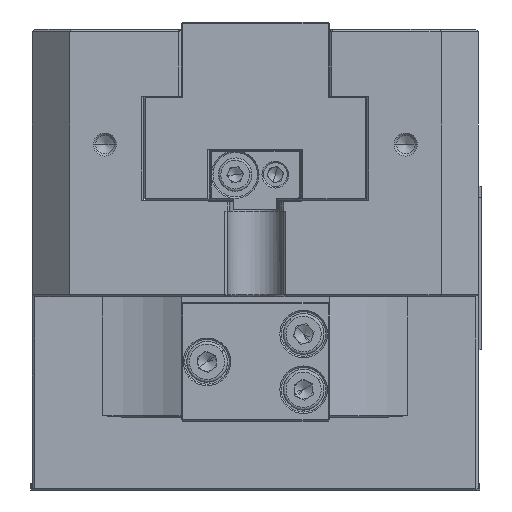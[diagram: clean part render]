
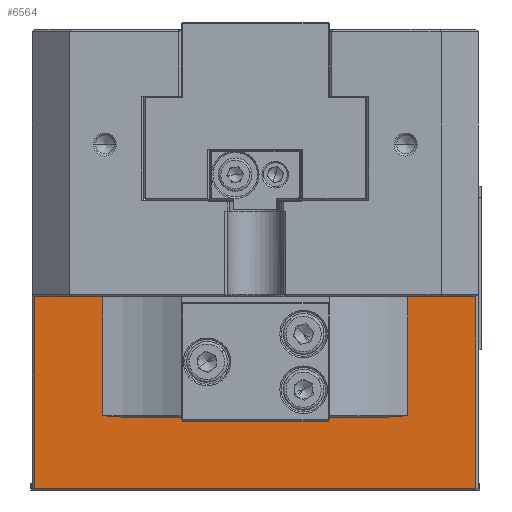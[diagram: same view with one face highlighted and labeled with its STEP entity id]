
A CAD part, left-side view. The second image highlights one B-rep face of the part: STEP entity #6564.
In plain terms, the highlighted planar face has unit normal (-1, 0, 0).
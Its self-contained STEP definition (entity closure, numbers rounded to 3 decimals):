
#175 = VERTEX_POINT ( 'NONE', #23861 ) ;
#216 = CARTESIAN_POINT ( 'NONE',  ( -50., 29.7, 0. ) ) ;
#347 = LINE ( 'NONE', #21010, #66348 ) ;
#1932 = VERTEX_POINT ( 'NONE', #38141 ) ;
#2890 = CARTESIAN_POINT ( 'NONE',  ( -50., -18.65, -34.067 ) ) ;
#3923 = B_SPLINE_CURVE_WITH_KNOTS ( 'NONE', 3,
 ( #31801, #9764, #32296, #4264 ),
 .UNSPECIFIED., .F., .F.,
 ( 4, 4 ),
 ( 0., 1. ),
 .UNSPECIFIED. ) ;
#4264 = CARTESIAN_POINT ( 'NONE',  ( -50., 20.536, -34. ) ) ;
#5652 = EDGE_CURVE ( 'NONE', #35969, #1932, #10159, .T. ) ;
#6564 = ADVANCED_FACE ( 'NONE', ( #64176 ), #29659, .F. ) ;
#8763 = LINE ( 'NONE', #31832, #19246 ) ;
#9575 = CARTESIAN_POINT ( 'NONE',  ( -50., 30., -18. ) ) ;
#9764 = CARTESIAN_POINT ( 'NONE',  ( -50., 18.65, -34.067 ) ) ;
#9846 = ORIENTED_EDGE ( 'NONE', *, *, #62039, .F. ) ;
#10005 = ORIENTED_EDGE ( 'NONE', *, *, #10075, .T. ) ;
#10075 = EDGE_CURVE ( 'NONE', #1932, #18833, #65942, .T. ) ;
#10159 = LINE ( 'NONE', #41234, #44853 ) ;
#10592 = LINE ( 'NONE', #57325, #67940 ) ;
#14437 = DIRECTION ( 'NONE',  ( 0., 0., 1. ) ) ;
#14696 = DIRECTION ( 'NONE',  ( 0., -1., 0. ) ) ;
#14949 = EDGE_CURVE ( 'NONE', #58570, #47587, #10592, .T. ) ;
#15940 = CARTESIAN_POINT ( 'NONE',  ( -50., -20.536, -18. ) ) ;
#18833 = VERTEX_POINT ( 'NONE', #22720 ) ;
#18950 = DIRECTION ( 'NONE',  ( 0., -1., 0. ) ) ;
#19246 = VECTOR ( 'NONE', #65439, 1000. ) ;
#19361 = CARTESIAN_POINT ( 'NONE',  ( -50., -17.7, -34.2 ) ) ;
#21010 = CARTESIAN_POINT ( 'NONE',  ( -50., 20.536, 0. ) ) ;
#22720 = CARTESIAN_POINT ( 'NONE',  ( -50., -17.7, -34.2 ) ) ;
#23861 = CARTESIAN_POINT ( 'NONE',  ( -50., 17.7, -34.2 ) ) ;
#24524 = ORIENTED_EDGE ( 'NONE', *, *, #63906, .T. ) ;
#25110 = CARTESIAN_POINT ( 'NONE',  ( -50., -29.7, 0. ) ) ;
#25201 = CARTESIAN_POINT ( 'NONE',  ( -50., 29.7, -43.8 ) ) ;
#26056 = CARTESIAN_POINT ( 'NONE',  ( -50., 0., -34.2 ) ) ;
#26693 = CARTESIAN_POINT ( 'NONE',  ( -50., -29.7, -43.8 ) ) ;
#26793 = CARTESIAN_POINT ( 'NONE',  ( -50., 20.536, -34. ) ) ;
#28349 = EDGE_CURVE ( 'NONE', #56818, #31678, #347, .T. ) ;
#29659 = PLANE ( 'NONE',  #71120 ) ;
#31678 = VERTEX_POINT ( 'NONE', #40712 ) ;
#31801 = CARTESIAN_POINT ( 'NONE',  ( -50., 17.7, -34.2 ) ) ;
#31832 = CARTESIAN_POINT ( 'NONE',  ( -50., 30., -18. ) ) ;
#32296 = CARTESIAN_POINT ( 'NONE',  ( -50., 19.595, -34. ) ) ;
#33185 = EDGE_CURVE ( 'NONE', #175, #56818, #3923, .T. ) ;
#34960 = ORIENTED_EDGE ( 'NONE', *, *, #5652, .T. ) ;
#35969 = VERTEX_POINT ( 'NONE', #15940 ) ;
#38141 = CARTESIAN_POINT ( 'NONE',  ( -50., -20.536, -34. ) ) ;
#38417 = EDGE_CURVE ( 'NONE', #38543, #31678, #65860, .T. ) ;
#38543 = VERTEX_POINT ( 'NONE', #60584 ) ;
#38835 = VECTOR ( 'NONE', #14696, 1000. ) ;
#39296 = LINE ( 'NONE', #216, #71555 ) ;
#40390 = DIRECTION ( 'NONE',  ( 0., 1., 0. ) ) ;
#40712 = CARTESIAN_POINT ( 'NONE',  ( -50., 20.536, -18. ) ) ;
#41234 = CARTESIAN_POINT ( 'NONE',  ( -50., -20.536, 0. ) ) ;
#41541 = VERTEX_POINT ( 'NONE', #63255 ) ;
#41646 = EDGE_LOOP ( 'NONE', ( #58911, #68829, #24524, #43290, #34960, #10005, #9846, #47036, #71441, #62376 ) ) ;
#43290 = ORIENTED_EDGE ( 'NONE', *, *, #68957, .F. ) ;
#43541 = EDGE_CURVE ( 'NONE', #38543, #58570, #39296, .T. ) ;
#44221 = DIRECTION ( 'NONE',  ( 0., -1., 0. ) ) ;
#44853 = VECTOR ( 'NONE', #53129, 1000. ) ;
#47036 = ORIENTED_EDGE ( 'NONE', *, *, #33185, .T. ) ;
#47587 = VERTEX_POINT ( 'NONE', #26693 ) ;
#51303 = CARTESIAN_POINT ( 'NONE',  ( -50., 0., 0. ) ) ;
#51550 = DIRECTION ( 'NONE',  ( 1., 0., 0. ) ) ;
#53129 = DIRECTION ( 'NONE',  ( 0., 0., -1. ) ) ;
#54013 = LINE ( 'NONE', #25110, #57530 ) ;
#56253 = DIRECTION ( 'NONE',  ( 0., 0., -1. ) ) ;
#56818 = VERTEX_POINT ( 'NONE', #26793 ) ;
#57325 = CARTESIAN_POINT ( 'NONE',  ( -50., 0., -43.8 ) ) ;
#57530 = VECTOR ( 'NONE', #14437, 1000. ) ;
#58187 = CARTESIAN_POINT ( 'NONE',  ( -50., -20.536, -34. ) ) ;
#58570 = VERTEX_POINT ( 'NONE', #25201 ) ;
#58911 = ORIENTED_EDGE ( 'NONE', *, *, #43541, .T. ) ;
#59157 = CARTESIAN_POINT ( 'NONE',  ( -50., -19.595, -34. ) ) ;
#59873 = DIRECTION ( 'NONE',  ( 0., 0., 1. ) ) ;
#60382 = LINE ( 'NONE', #26056, #69930 ) ;
#60584 = CARTESIAN_POINT ( 'NONE',  ( -50., 29.7, -18. ) ) ;
#62039 = EDGE_CURVE ( 'NONE', #175, #18833, #60382, .T. ) ;
#62376 = ORIENTED_EDGE ( 'NONE', *, *, #38417, .F. ) ;
#63255 = CARTESIAN_POINT ( 'NONE',  ( -50., -29.7, -18. ) ) ;
#63906 = EDGE_CURVE ( 'NONE', #47587, #41541, #54013, .T. ) ;
#64176 = FACE_OUTER_BOUND ( 'NONE', #41646, .T. ) ;
#65439 = DIRECTION ( 'NONE',  ( 0., -1., 0. ) ) ;
#65860 = LINE ( 'NONE', #9575, #38835 ) ;
#65942 = B_SPLINE_CURVE_WITH_KNOTS ( 'NONE', 3,
 ( #58187, #59157, #2890, #19361 ),
 .UNSPECIFIED., .F., .F.,
 ( 4, 4 ),
 ( 0., 1. ),
 .UNSPECIFIED. ) ;
#66348 = VECTOR ( 'NONE', #59873, 1000. ) ;
#67940 = VECTOR ( 'NONE', #18950, 1000. ) ;
#68829 = ORIENTED_EDGE ( 'NONE', *, *, #14949, .T. ) ;
#68957 = EDGE_CURVE ( 'NONE', #35969, #41541, #8763, .T. ) ;
#69930 = VECTOR ( 'NONE', #44221, 1000. ) ;
#71120 = AXIS2_PLACEMENT_3D ( 'NONE', #51303, #51550, #40390 ) ;
#71441 = ORIENTED_EDGE ( 'NONE', *, *, #28349, .T. ) ;
#71555 = VECTOR ( 'NONE', #56253, 1000. ) ;
